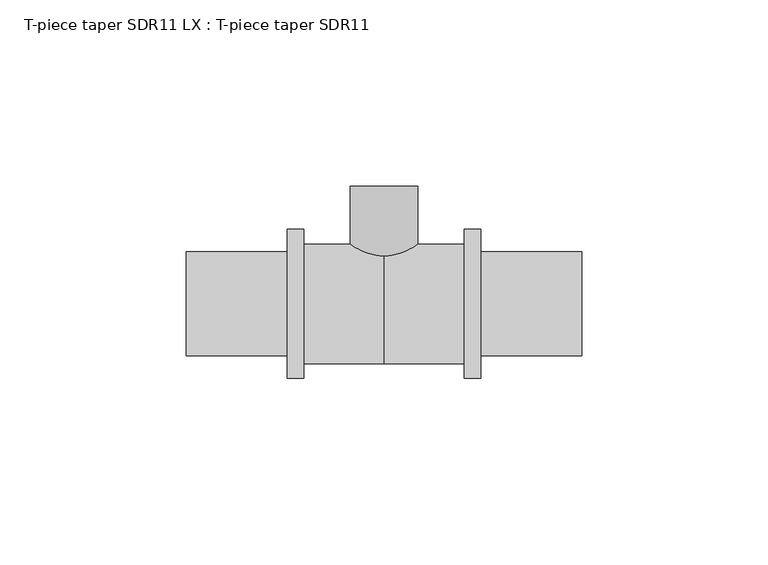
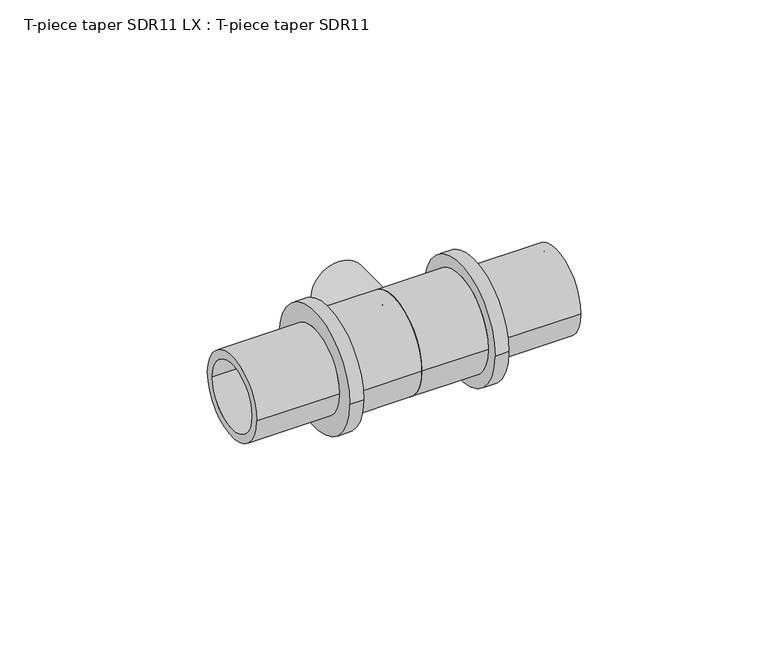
"""IFC4 building model written with IfcOpenShell, lengths in millimetres: pipe fitting geometry, T-piece taper SDR11 LX : T-piece taper SDR11."""

from ifc_helpers import new_model, si_unit, point, frame, origin, origin_2d, place, context, project, spatial, polyline, circle_curve, trimmed, segment, composite_curve, outline, extrude, source, transform, mapped, element, save
from ifc_brep_helpers import plane_surface, cylinder_surface, revolved_surface, advanced_brep


def t_piece_taper_sdr11_lx_t_piece_taper_sdr11_17872884(model_context):
    return source(origin(), model_context, "Body", "SolidModel", [
        extrude(outline(composite_curve([segment(trimmed(circle_curve(origin_2d(), 9.0), [point((0.0, 9.0))], [point((0.0, -9.0))], False, "CARTESIAN"), True, "CONTINUOUS"), segment(trimmed(circle_curve(origin_2d(), 9.0), [point((0.0, -9.0))], [point((0.0, 9.0))], False, "CARTESIAN"), True, "CONTINUOUS")], self_intersect=False), holes=[composite_curve([segment(trimmed(circle_curve(origin_2d(), 6.5), [point((0.0, -6.5))], [point((0.0, 6.5))], True, "CARTESIAN"), True, "CONTINUOUS"), segment(trimmed(circle_curve(origin_2d(), 6.5), [point((0.0, 6.5))], [point((0.0, -6.5))], True, "CARTESIAN"), True, "CONTINUOUS")], self_intersect=False)]), frame((0.0, 0.0, 0.0), z_axis=(0.0, 1.0, 0.0), x_axis=(0.0, 0.0, 1.0)), (0.0, 0.0, 1.0), 31.5),
        advanced_brep(
        [(21.5, 16.0, 0.0), (21.5, -16.0, 0.0), (0.0, -16.0, 0.0), (0.0, 16.0, 0.0), (0.0, 11.2, 0.0), (0.0, -11.2, 0.0), (53.0, -11.2, 0.0), (53.0, 11.2, 0.0), (53.0, 13.95, 0.0), (53.0, -13.95, 0.0), (26.0, -13.95, 0.0), (26.0, 13.95, 0.0), (26.0, 20.0, 0.0), (26.0, -20.0, 0.0), (21.5, -20.0, 0.0), (21.5, 20.0, 0.0)],
        [
            (0, 1, circle_curve(frame((21.5, 0.0, 0.0), z_axis=(-1.0, 0.0, 0.0), x_axis=(0.0, -1.0, 0.0)), 16.0)),
            (1, 2),
            (2, 3, circle_curve(frame((0.0, 0.0, 0.0), z_axis=(1.0, 0.0, 0.0), x_axis=(0.0, -1.0, 0.0)), 16.0)),
            (3, 0),
            (4, 5, circle_curve(frame((0.0, 0.0, 0.0), z_axis=(-1.0, 0.0, 0.0), x_axis=(0.0, -1.0, 0.0)), 11.2)),
            (5, 6),
            (6, 7, circle_curve(frame((53.0, 0.0, 0.0), z_axis=(1.0, 0.0, 0.0), x_axis=(0.0, -1.0, 0.0)), 11.2)),
            (7, 4),
            (8, 9, circle_curve(frame((53.0, 0.0, 0.0), z_axis=(-1.0, 0.0, 0.0), x_axis=(0.0, -1.0, 0.0)), 13.95)),
            (9, 10),
            (10, 11, circle_curve(frame((26.0, 0.0, 0.0), z_axis=(1.0, 0.0, 0.0), x_axis=(0.0, -1.0, 0.0)), 13.95)),
            (11, 8),
            (12, 13, circle_curve(frame((26.0, 0.0, 0.0), z_axis=(-1.0, 0.0, 0.0), x_axis=(0.0, -1.0, 0.0)), 20.0)),
            (13, 14),
            (14, 15, circle_curve(frame((21.5, 0.0, 0.0), z_axis=(1.0, 0.0, 0.0), x_axis=(0.0, -1.0, 0.0)), 20.0)),
            (15, 12),
            (14, 15, circle_curve(frame((21.5, 0.0, 0.0), z_axis=(-1.0, 0.0, 0.0), x_axis=(0.0, 1.0, 0.0)), 20.0)),
            (0, 1, circle_curve(frame((21.5, 0.0, 0.0), z_axis=(1.0, 0.0, 0.0), x_axis=(0.0, 1.0, 0.0)), 16.0)),
            (3, 2, circle_curve(frame((0.0, 0.0, 0.0), z_axis=(1.0, 0.0, 0.0), x_axis=(0.0, 1.0, 0.0)), 16.0)),
            (4, 5, circle_curve(frame((0.0, 0.0, 0.0), z_axis=(1.0, 0.0, 0.0), x_axis=(0.0, 1.0, 0.0)), 11.2)),
            (7, 6, circle_curve(frame((53.0, 0.0, 0.0), z_axis=(1.0, 0.0, 0.0), x_axis=(0.0, 1.0, 0.0)), 11.2)),
            (8, 9, circle_curve(frame((53.0, 0.0, 0.0), z_axis=(1.0, 0.0, 0.0), x_axis=(0.0, 1.0, 0.0)), 13.95)),
            (11, 10, circle_curve(frame((26.0, 0.0, 0.0), z_axis=(1.0, 0.0, 0.0), x_axis=(0.0, 1.0, 0.0)), 13.95)),
            (12, 13, circle_curve(frame((26.0, 0.0, 0.0), z_axis=(1.0, 0.0, 0.0), x_axis=(0.0, 1.0, 0.0)), 20.0)),
        ],
        [
            cylinder_surface(frame((0.0, 0.0, 0.0), z_axis=(1.0, 0.0, 0.0), x_axis=(0.0, -1.0, 0.0)), 16.0),
            revolved_surface(polyline([(53.0, -11.2, 0.0), (0.0, -11.2, 0.0)]), (0.0, 0.0, 0.0), (1.0, 0.0, 0.0)),
            cylinder_surface(frame((0.0, 0.0, 0.0), z_axis=(1.0, 0.0, 0.0), x_axis=(0.0, -1.0, 0.0)), 13.95),
            cylinder_surface(frame((0.0, 0.0, 0.0), z_axis=(1.0, 0.0, 0.0), x_axis=(0.0, -1.0, 0.0)), 20.0),
            plane_surface(frame((21.5, 0.0, 0.0), z_axis=(-1.0, 0.0, 0.0), x_axis=(0.0, 1.0, 0.0))),
            cylinder_surface(frame((0.0, 0.0, 0.0), z_axis=(1.0, 0.0, 0.0), x_axis=(0.0, 1.0, 0.0)), 16.0),
            plane_surface(frame((0.0, 0.0, 0.0), z_axis=(-1.0, 0.0, 0.0), x_axis=(0.0, 1.0, 0.0))),
            revolved_surface(polyline([(53.0, 11.2, 0.0), (0.0, 11.2, 0.0)]), (0.0, 0.0, 0.0), (1.0, 0.0, 0.0)),
            plane_surface(frame((53.0, 0.0, 0.0), z_axis=(1.0, 0.0, 0.0), x_axis=(0.0, 1.0, 0.0))),
            cylinder_surface(frame((0.0, 0.0, 0.0), z_axis=(1.0, 0.0, 0.0), x_axis=(0.0, 1.0, 0.0)), 13.95),
            plane_surface(frame((26.0, 0.0, 0.0), z_axis=(1.0, 0.0, 0.0), x_axis=(0.0, 1.0, 0.0))),
            cylinder_surface(frame((0.0, 0.0, 0.0), z_axis=(1.0, 0.0, 0.0), x_axis=(0.0, 1.0, 0.0)), 20.0),
        ],
        [
            (0, [[1, 2, 3, 4]]),
            (1, [[5, 6, 7, 8]]),
            (2, [[9, 10, 11, 12]]),
            (3, [[13, 14, 15, 16]]),
            (4, [[17, -15], [18, -1]]),
            (5, [[-18, -4, 19, -2]]),
            (6, [[-19, -3], [20, -5]]),
            (7, [[-20, -8, 21, -6]]),
            (8, [[22, -9], [-21, -7]]),
            (9, [[-22, -12, 23, -10]]),
            (10, [[24, -13], [-23, -11]]),
            (11, [[-24, -16, -17, -14]]),
        ],
    ),
        advanced_brep(
        [(0.0, 16.0, 0.0), (0.0, -16.0, 0.0), (-21.5, -16.0, 0.0), (-21.5, 16.0, 0.0), (-53.0, 11.2, 0.0), (-53.0, -11.2, 0.0), (0.0, -11.2, 0.0), (0.0, 11.2, 0.0), (-26.0, 13.95, 0.0), (-26.0, -13.95, 0.0), (-53.0, -13.95, 0.0), (-53.0, 13.95, 0.0), (-21.5, 20.0, 0.0), (-21.5, -20.0, 0.0), (-26.0, -20.0, 0.0), (-26.0, 20.0, 0.0)],
        [
            (0, 1, circle_curve(frame((0.0, 0.0, 0.0), z_axis=(-1.0, 0.0, 0.0), x_axis=(0.0, -1.0, 0.0)), 16.0)),
            (1, 2),
            (2, 3, circle_curve(frame((-21.5, 0.0, 0.0), z_axis=(1.0, 0.0, 0.0), x_axis=(0.0, -1.0, 0.0)), 16.0)),
            (3, 0),
            (4, 5, circle_curve(frame((-53.0, 0.0, 0.0), z_axis=(-1.0, 0.0, 0.0), x_axis=(0.0, -1.0, 0.0)), 11.2)),
            (5, 6),
            (6, 7, circle_curve(frame((0.0, 0.0, 0.0), z_axis=(1.0, 0.0, 0.0), x_axis=(0.0, -1.0, 0.0)), 11.2)),
            (7, 4),
            (8, 9, circle_curve(frame((-26.0, 0.0, 0.0), z_axis=(-1.0, 0.0, 0.0), x_axis=(0.0, -1.0, 0.0)), 13.95)),
            (9, 10),
            (10, 11, circle_curve(frame((-53.0, 0.0, 0.0), z_axis=(1.0, 0.0, 0.0), x_axis=(0.0, -1.0, 0.0)), 13.95)),
            (11, 8),
            (12, 13, circle_curve(frame((-21.5, 0.0, 0.0), z_axis=(-1.0, 0.0, 0.0), x_axis=(0.0, -1.0, 0.0)), 20.0)),
            (13, 14),
            (14, 15, circle_curve(frame((-26.0, 0.0, 0.0), z_axis=(1.0, 0.0, 0.0), x_axis=(0.0, -1.0, 0.0)), 20.0)),
            (15, 12),
            (12, 13, circle_curve(frame((-21.5, 0.0, 0.0), z_axis=(1.0, 0.0, 0.0), x_axis=(0.0, 1.0, 0.0)), 20.0)),
            (2, 3, circle_curve(frame((-21.5, 0.0, 0.0), z_axis=(-1.0, 0.0, 0.0), x_axis=(0.0, 1.0, 0.0)), 16.0)),
            (1, 0, circle_curve(frame((0.0, 0.0, 0.0), z_axis=(-1.0, 0.0, 0.0), x_axis=(0.0, 1.0, 0.0)), 16.0)),
            (6, 7, circle_curve(frame((0.0, 0.0, 0.0), z_axis=(-1.0, 0.0, 0.0), x_axis=(0.0, 1.0, 0.0)), 11.2)),
            (5, 4, circle_curve(frame((-53.0, 0.0, 0.0), z_axis=(-1.0, 0.0, 0.0), x_axis=(0.0, 1.0, 0.0)), 11.2)),
            (10, 11, circle_curve(frame((-53.0, 0.0, 0.0), z_axis=(-1.0, 0.0, 0.0), x_axis=(0.0, 1.0, 0.0)), 13.95)),
            (9, 8, circle_curve(frame((-26.0, 0.0, 0.0), z_axis=(-1.0, 0.0, 0.0), x_axis=(0.0, 1.0, 0.0)), 13.95)),
            (14, 15, circle_curve(frame((-26.0, 0.0, 0.0), z_axis=(-1.0, 0.0, 0.0), x_axis=(0.0, 1.0, 0.0)), 20.0)),
        ],
        [
            cylinder_surface(frame((0.0, 0.0, 0.0), z_axis=(1.0, 0.0, 0.0), x_axis=(0.0, -1.0, 0.0)), 16.0),
            revolved_surface(polyline([(0.0, -11.2, 0.0), (-53.0, -11.2, 0.0)]), (0.0, 0.0, 0.0), (1.0, 0.0, 0.0)),
            cylinder_surface(frame((0.0, 0.0, 0.0), z_axis=(1.0, 0.0, 0.0), x_axis=(0.0, -1.0, 0.0)), 13.95),
            cylinder_surface(frame((0.0, 0.0, 0.0), z_axis=(1.0, 0.0, 0.0), x_axis=(0.0, -1.0, 0.0)), 20.0),
            plane_surface(frame((-21.5, 0.0, 0.0), z_axis=(1.0, 0.0, 0.0), x_axis=(0.0, 1.0, 0.0))),
            cylinder_surface(frame((0.0, 0.0, 0.0), z_axis=(1.0, 0.0, 0.0), x_axis=(0.0, 1.0, 0.0)), 16.0),
            plane_surface(frame((0.0, 0.0, 0.0), z_axis=(1.0, 0.0, 0.0), x_axis=(0.0, 1.0, 0.0))),
            revolved_surface(polyline([(0.0, 11.2, 0.0), (-53.0, 11.2, 0.0)]), (0.0, 0.0, 0.0), (1.0, 0.0, 0.0)),
            plane_surface(frame((-53.0, 0.0, 0.0), z_axis=(-1.0, 0.0, 0.0), x_axis=(0.0, 1.0, 0.0))),
            cylinder_surface(frame((0.0, 0.0, 0.0), z_axis=(1.0, 0.0, 0.0), x_axis=(0.0, 1.0, 0.0)), 13.95),
            plane_surface(frame((-26.0, 0.0, 0.0), z_axis=(-1.0, 0.0, 0.0), x_axis=(0.0, 1.0, 0.0))),
            cylinder_surface(frame((0.0, 0.0, 0.0), z_axis=(1.0, 0.0, 0.0), x_axis=(0.0, 1.0, 0.0)), 20.0),
        ],
        [
            (0, [[1, 2, 3, 4]]),
            (1, [[5, 6, 7, 8]]),
            (2, [[9, 10, 11, 12]]),
            (3, [[13, 14, 15, 16]]),
            (4, [[17, -13], [18, -3]]),
            (5, [[19, -4, -18, -2]]),
            (6, [[-19, -1], [20, -7]]),
            (7, [[21, -8, -20, -6]]),
            (8, [[22, -11], [-21, -5]]),
            (9, [[23, -12, -22, -10]]),
            (10, [[24, -15], [-23, -9]]),
            (11, [[-17, -16, -24, -14]]),
        ],
    ),
    ])


if __name__ == "__main__":
    model = new_model("IFC4")
    model_context = context("Model", 3, world=origin())
    ifc_project = project(units=[si_unit("LENGTHUNIT", "METRE", prefix="MILLI")], contexts=[model_context])
    site = spatial("IfcSite", under=ifc_project)
    building = spatial("IfcBuilding", under=site)
    placement = place(None, origin())
    t_piece_taper_sdr11_lx_t_piece_taper_sdr11_shape = t_piece_taper_sdr11_lx_t_piece_taper_sdr11_17872884(model_context)
    element("IfcPipeFitting", 1, ObjectType="T-piece taper SDR11 LX : T-piece taper SDR11", at=placement, inside=building, context=model_context, shape_type="MappedRepresentation", body=[
        mapped(t_piece_taper_sdr11_lx_t_piece_taper_sdr11_shape, transform((0.0, 0.0, 0.0), x_axis=(1.0, 0.0, 0.0), y_axis=(0.0, 1.0, 0.0), z_axis=(0.0, 0.0, 1.0))),
    ])
    save(model, "model.ifc")
